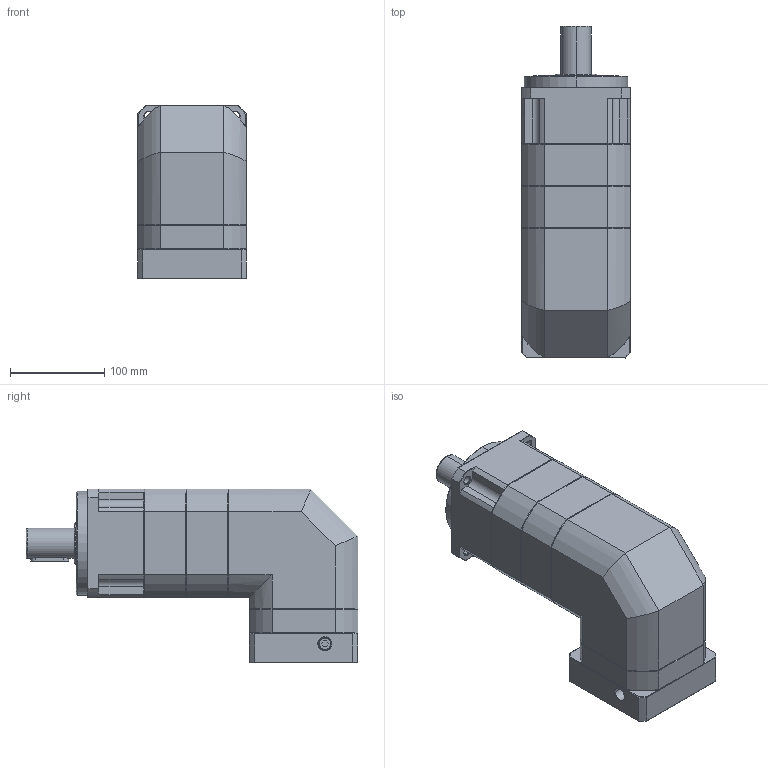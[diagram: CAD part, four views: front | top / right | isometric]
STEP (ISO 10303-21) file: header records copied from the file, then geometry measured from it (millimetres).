
FILE_DESCRIPTION (( 'STEP AP214' ), '1' );
FILE_NAME ('ZPBR115-D32-L3-P1-22-110-130-M8.step', '2024-06-29T08:10:11', ( 'Windows 蚚誧' ), ( 'Organization' ), 'SwSTEP 2.0', 'SolidWorks 2016', '' );
FILE_SCHEMA (( 'AUTOMOTIVE_DESIGN' ));
Length unit declared in the file: millimetre
Products named in the file (1): ZPBR115-D32-L3-P1-22-110-130-M8
Bounding box: 115 x 351.5 x 184.2 mm (x, y, z)
Surface area: 217454.2 mm2 (no closed solid volume)
Topology: 0 solids, 29 shells, 1871 faces, 5013 edges, 3201 vertices
Faces by surface type: plane 956, bspline 381, cone 294, cylinder 240
Full cylindrical faces by diameter (mm): 10.2 x1
Entity records: 100623 total; most frequent: CARTESIAN_POINT 49571, ORIENTED_EDGE 9996, DIRECTION 7694, EDGE_CURVE 5007, VECTOR 3224, LINE 3224, VERTEX_POINT 3199, AXIS2_PLACEMENT_3D 2235
